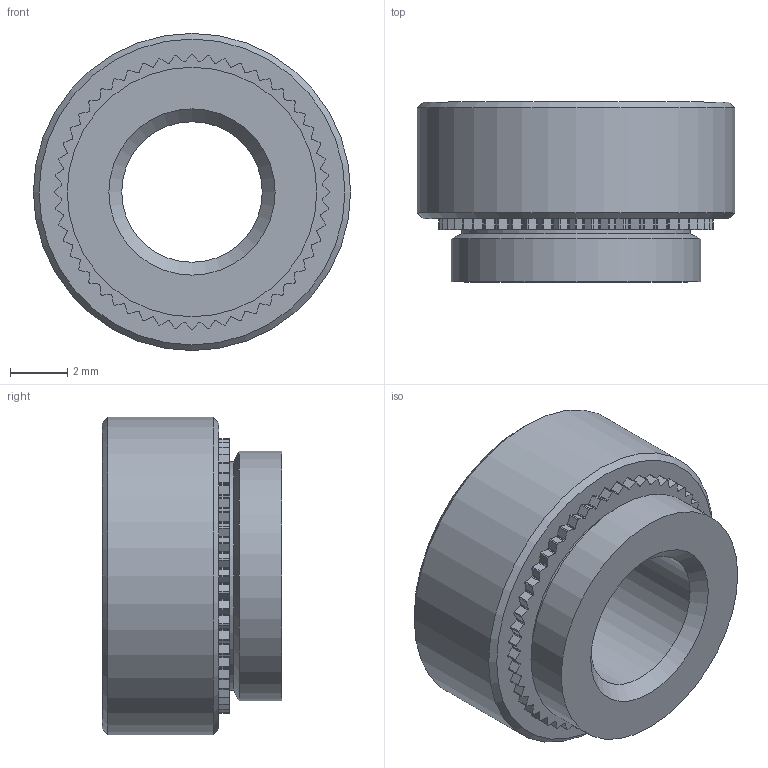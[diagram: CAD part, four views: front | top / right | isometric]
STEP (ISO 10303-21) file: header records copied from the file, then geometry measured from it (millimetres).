
FILE_DESCRIPTION(/* description */ (''),/* implementation_level */ '2;1');
FILE_NAME(/* name */ 'C:\Users\keval.kumar\Desktop\Fastit\Clinch nut\M6\Clinch Nut_M6_2.stp',/* time_stamp */ '2024-03-14T09:41:28+05:00',/* author */ ('keval.kumar'),/* organization */ (''),/* preprocessor_version */ 'ST-DEVELOPER v18.1',/* originating_system */ 'Autodesk Inventor 2022',/* authorisation */ '');
FILE_SCHEMA (('AUTOMOTIVE_DESIGN { 1 0 10303 214 3 1 1 }'));
Length unit declared in the file: millimetre
Products named in the file (1): Clinch Nut_M6_2
Bounding box: 11.1 x 6.29 x 11.1 mm (x, y, z)
Volume: 404.2 mm3; surface area: 459 mm2
Topology: 1 solids, 1 shells, 325 faces, 960 edges, 639 vertices
Faces by surface type: cylinder 212, plane 108, cone 5
Full cylindrical faces by diameter (mm): 4.917 x1, 8 x1, 8.733 x1, 11.1 x1
Entity records: 11088 total; most frequent: DIRECTION 2043, CARTESIAN_POINT 1925, ORIENTED_EDGE 1920, EDGE_CURVE 960, AXIS2_PLACEMENT_3D 757, VERTEX_POINT 639, LINE 529, VECTOR 529
